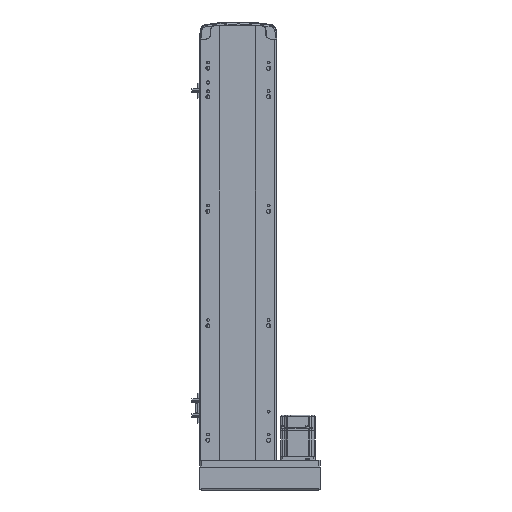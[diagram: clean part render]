
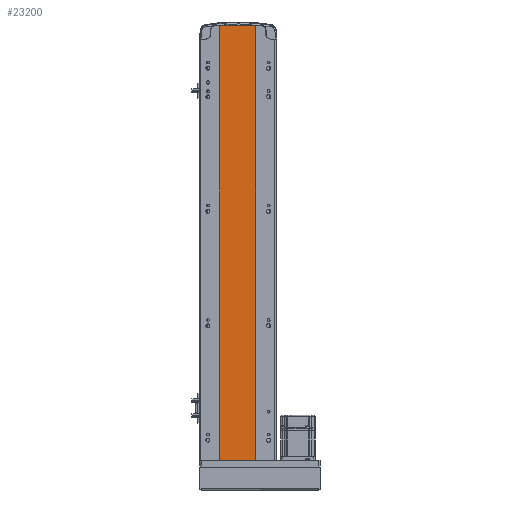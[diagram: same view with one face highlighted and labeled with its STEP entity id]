
A CAD part, front view. The second image highlights one B-rep face of the part: STEP entity #23200.
In plain terms, the highlighted planar face has unit normal (0, -1, 0).
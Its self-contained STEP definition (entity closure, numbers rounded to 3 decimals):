
#4245 = CARTESIAN_POINT ( 'NONE',  ( -32., 1., 759. ) ) ;
#7353 = VECTOR ( 'NONE', #26597, 1000. ) ;
#7738 = PLANE ( 'NONE',  #10850 ) ;
#7857 = EDGE_CURVE ( 'NONE', #13837, #53702, #35914, .T. ) ;
#9388 = EDGE_CURVE ( 'NONE', #34952, #22160, #25447, .T. ) ;
#10850 = AXIS2_PLACEMENT_3D ( 'NONE', #16684, #47665, #52148 ) ;
#13837 = VERTEX_POINT ( 'NONE', #51235 ) ;
#14404 = ORIENTED_EDGE ( 'NONE', *, *, #40773, .T. ) ;
#16684 = CARTESIAN_POINT ( 'NONE',  ( -32., 1., 759. ) ) ;
#16880 = CARTESIAN_POINT ( 'NONE',  ( 30., 1., 759. ) ) ;
#21833 = ORIENTED_EDGE ( 'NONE', *, *, #21927, .F. ) ;
#21927 = EDGE_CURVE ( 'NONE', #53702, #22160, #53267, .T. ) ;
#21958 = EDGE_LOOP ( 'NONE', ( #25872, #21833, #46826, #14404 ) ) ;
#22160 = VERTEX_POINT ( 'NONE', #22870 ) ;
#22777 = VECTOR ( 'NONE', #30080, 1000. ) ;
#22870 = CARTESIAN_POINT ( 'NONE',  ( 30., 1., 0. ) ) ;
#23200 = ADVANCED_FACE ( 'NONE', ( #43435 ), #7738, .F. ) ;
#25447 = LINE ( 'NONE', #39165, #49689 ) ;
#25872 = ORIENTED_EDGE ( 'NONE', *, *, #9388, .T. ) ;
#26597 = DIRECTION ( 'NONE',  ( 0., 0., -1. ) ) ;
#28321 = CARTESIAN_POINT ( 'NONE',  ( 30., 1., 759. ) ) ;
#30080 = DIRECTION ( 'NONE',  ( 0., 0., -1. ) ) ;
#34952 = VERTEX_POINT ( 'NONE', #39135 ) ;
#35914 = LINE ( 'NONE', #49119, #46236 ) ;
#39135 = CARTESIAN_POINT ( 'NONE',  ( -32., 1., 0. ) ) ;
#39165 = CARTESIAN_POINT ( 'NONE',  ( -32., 1., 0. ) ) ;
#40243 = DIRECTION ( 'NONE',  ( 1., 0., 0. ) ) ;
#40773 = EDGE_CURVE ( 'NONE', #13837, #34952, #45523, .T. ) ;
#43435 = FACE_OUTER_BOUND ( 'NONE', #21958, .T. ) ;
#45523 = LINE ( 'NONE', #4245, #7353 ) ;
#46236 = VECTOR ( 'NONE', #40243, 1000. ) ;
#46826 = ORIENTED_EDGE ( 'NONE', *, *, #7857, .F. ) ;
#47665 = DIRECTION ( 'NONE',  ( 0., 1., 0. ) ) ;
#49119 = CARTESIAN_POINT ( 'NONE',  ( -32., 1., 759. ) ) ;
#49689 = VECTOR ( 'NONE', #55914, 1000. ) ;
#51235 = CARTESIAN_POINT ( 'NONE',  ( -32., 1., 759. ) ) ;
#52148 = DIRECTION ( 'NONE',  ( -1., 0., 0. ) ) ;
#53267 = LINE ( 'NONE', #16880, #22777 ) ;
#53702 = VERTEX_POINT ( 'NONE', #28321 ) ;
#55914 = DIRECTION ( 'NONE',  ( 1., 0., 0. ) ) ;
